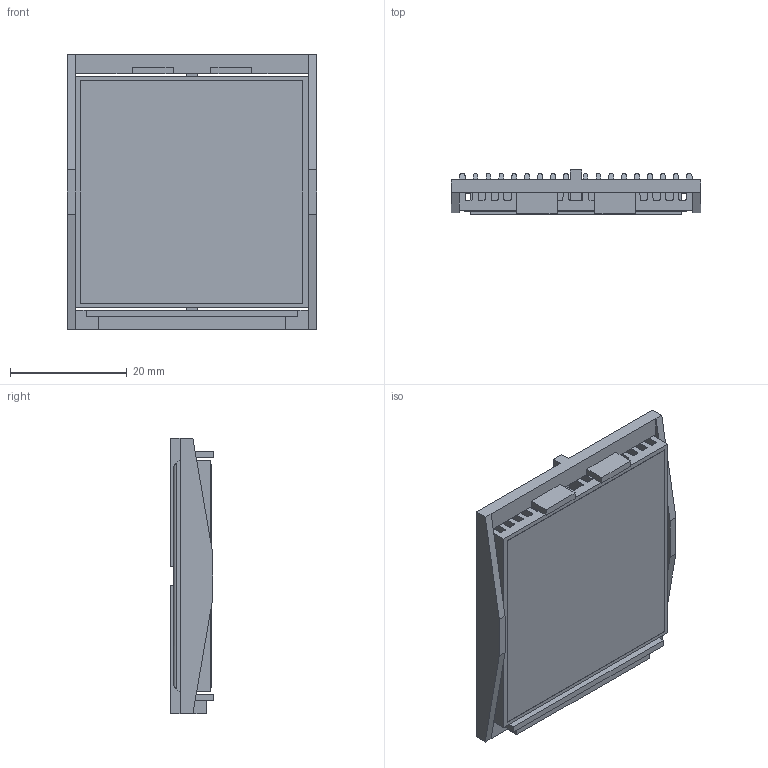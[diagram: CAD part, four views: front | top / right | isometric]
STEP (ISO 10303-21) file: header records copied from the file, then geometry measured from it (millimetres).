
FILE_DESCRIPTION (( 'STEP AP214' ), '1' );
FILE_NAME ('INL40001-6-1.7O.STEP', '2023-03-01T17:05:30', ( '' ), ( '' ), 'SwSTEP 2.0', 'SolidWorks 2020', '' );
FILE_SCHEMA (( 'AUTOMOTIVE_DESIGN' ));
Length unit declared in the file: millimetre
Products named in the file (1): INL40001-6-1.7O
Bounding box: 42.7 x 7.5 x 47.1 mm (x, y, z)
Volume: 7420.7 mm3; surface area: 15177.9 mm2
Topology: 3 solids, 3 shells, 198 faces, 578 edges, 384 vertices
Faces by surface type: plane 146, cylinder 52
Entity records: 8712 total; most frequent: CARTESIAN_POINT 1269, ORIENTED_EDGE 1156, DIRECTION 1008, EDGE_CURVE 578, VECTOR 474, LINE 474, VERTEX_POINT 384, AXIS2_PLACEMENT_3D 267
